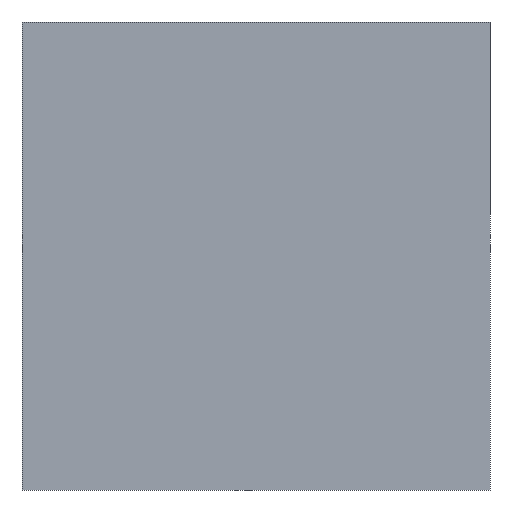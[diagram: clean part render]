
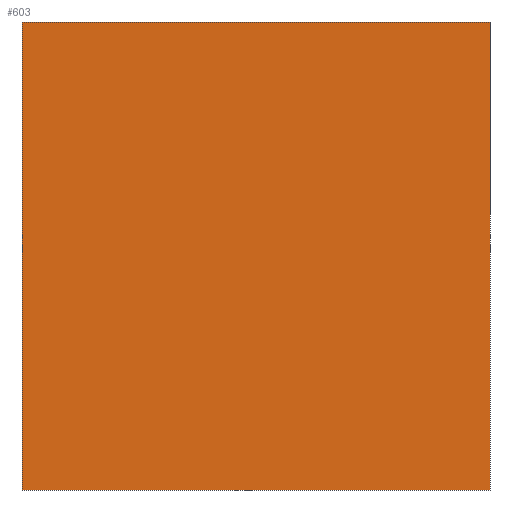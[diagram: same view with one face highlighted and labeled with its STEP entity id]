
A CAD part, front view. The second image highlights one B-rep face of the part: STEP entity #603.
In plain terms, the highlighted planar face has unit normal (0, -1, 0).
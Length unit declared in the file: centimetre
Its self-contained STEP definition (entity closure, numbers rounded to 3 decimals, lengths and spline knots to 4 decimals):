
#19 = ORIENTED_EDGE ( 'NONE', *, *, #787, .T. ) ;
#27 = EDGE_CURVE ( 'NONE', #797, #72, #379, .T. ) ;
#28 = DIRECTION ( 'NONE',  ( 0., 1., 0. ) ) ;
#30 = ORIENTED_EDGE ( 'NONE', *, *, #27, .F. ) ;
#72 = VERTEX_POINT ( 'NONE', #764 ) ;
#76 = LINE ( 'NONE', #593, #683 ) ;
#173 = VECTOR ( 'NONE', #815, 100. ) ;
#203 = VECTOR ( 'NONE', #695, 100. ) ;
#226 = FACE_OUTER_BOUND ( 'NONE', #254, .T. ) ;
#231 = CARTESIAN_POINT ( 'NONE',  ( 0., 0., 1000. ) ) ;
#239 = LINE ( 'NONE', #492, #515 ) ;
#251 = EDGE_CURVE ( 'NONE', #722, #797, #76, .T. ) ;
#254 = EDGE_LOOP ( 'NONE', ( #19, #30, #649, #331 ) ) ;
#331 = ORIENTED_EDGE ( 'NONE', *, *, #774, .T. ) ;
#360 = LINE ( 'NONE', #555, #173 ) ;
#363 = VERTEX_POINT ( 'NONE', #536 ) ;
#379 = LINE ( 'NONE', #504, #203 ) ;
#405 = DIRECTION ( 'NONE',  ( 0., 0., 1. ) ) ;
#428 = DIRECTION ( 'NONE',  ( 1., 0., 0. ) ) ;
#479 = PLANE ( 'NONE',  #804 ) ;
#492 = CARTESIAN_POINT ( 'NONE',  ( 0., 0., 0. ) ) ;
#496 = CARTESIAN_POINT ( 'NONE',  ( 1000., 0., 1000. ) ) ;
#504 = CARTESIAN_POINT ( 'NONE',  ( 1000., 0., 1000. ) ) ;
#515 = VECTOR ( 'NONE', #428, 100. ) ;
#536 = CARTESIAN_POINT ( 'NONE',  ( 0., 0., 0. ) ) ;
#555 = CARTESIAN_POINT ( 'NONE',  ( 0., 0., 1000. ) ) ;
#593 = CARTESIAN_POINT ( 'NONE',  ( 0., 0., 1000. ) ) ;
#603 = ADVANCED_FACE ( 'NONE', ( #226 ), #479, .F. ) ;
#649 = ORIENTED_EDGE ( 'NONE', *, *, #251, .F. ) ;
#665 = DIRECTION ( 'NONE',  ( 1., 0., 0. ) ) ;
#683 = VECTOR ( 'NONE', #665, 100. ) ;
#695 = DIRECTION ( 'NONE',  ( 0., 0., -1. ) ) ;
#722 = VERTEX_POINT ( 'NONE', #751 ) ;
#751 = CARTESIAN_POINT ( 'NONE',  ( 0., 0., 1000. ) ) ;
#764 = CARTESIAN_POINT ( 'NONE',  ( 1000., 0., 0. ) ) ;
#774 = EDGE_CURVE ( 'NONE', #722, #363, #360, .T. ) ;
#787 = EDGE_CURVE ( 'NONE', #363, #72, #239, .T. ) ;
#797 = VERTEX_POINT ( 'NONE', #496 ) ;
#804 = AXIS2_PLACEMENT_3D ( 'NONE', #231, #28, #405 ) ;
#815 = DIRECTION ( 'NONE',  ( 0., 0., -1. ) ) ;
